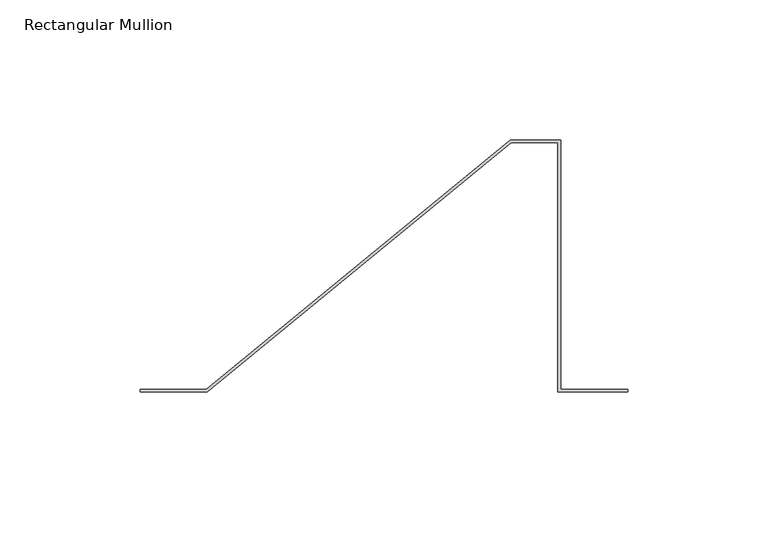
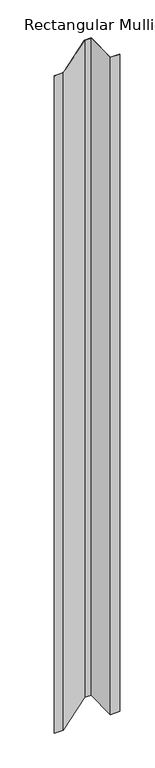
"""IFC4 building model written with IfcOpenShell, lengths in millimetres: member geometry, Rectangular Mullion : CD_NINELINE_Sawtooth Intermediate w Pan."""

from ifc_helpers import new_model, si_unit, frame, origin, place, context, project, spatial, polyline, outline, extrude, source, transform, mapped, element, save


def rectangular_mullion_e289bfa8(model_context):
    return source(origin(), model_context, "Body", "SweptSolid", [
        extrude(outline(polyline([(58.5, 0.0), (58.5, 89.0), (41.9195723, 89.0), (-66.5, 0.0), (-90.5, 0.0), (-90.5, 1.0), (-66.9105594, 1.0), (41.5090129, 90.0), (59.5, 90.0), (59.5, 1.0), (83.5, 1.0), (83.5, 0.0), (58.5, 0.0)])), frame((0.0, 0.0, -1852.0), z_axis=(0.0, 0.0, 1.0), x_axis=(1.0, 0.0, 0.0)), (0.0, 0.0, 1.0), 1852.0),
    ])


if __name__ == "__main__":
    model = new_model("IFC4")
    model_context = context("Model", 3, world=origin())
    ifc_project = project(units=[si_unit("LENGTHUNIT", "METRE", prefix="MILLI")], contexts=[model_context])
    site = spatial("IfcSite", under=ifc_project)
    building = spatial("IfcBuilding", under=site)
    placement = place(None, origin())
    rectangular_mullion_shape = rectangular_mullion_e289bfa8(model_context)
    element("IfcMember", 1, ObjectType="Rectangular Mullion : CD_NINELINE_Sawtooth Intermediate w Pan", at=placement, inside=building, context=model_context, shape_type="MappedRepresentation", body=[
        mapped(rectangular_mullion_shape, transform((0.0, 0.0, 0.0), x_axis=(1.0, 0.0, 0.0), y_axis=(0.0, 1.0, 0.0), z_axis=(0.0, 0.0, 1.0))),
    ])
    save(model, "model.ifc")
